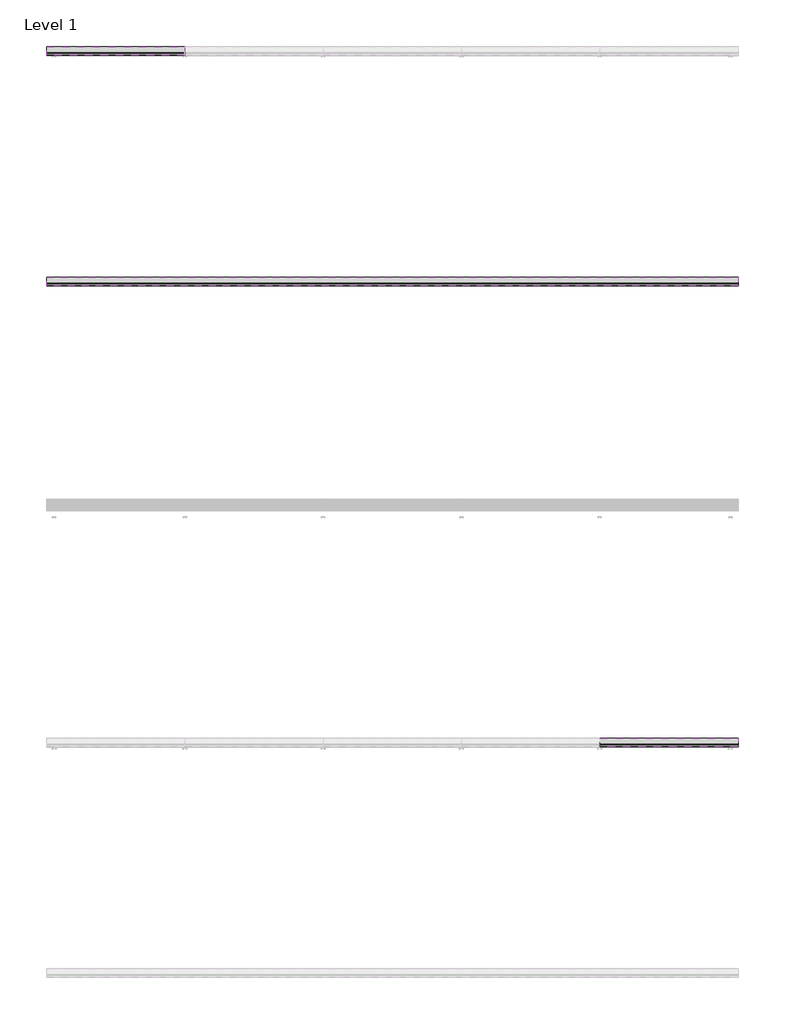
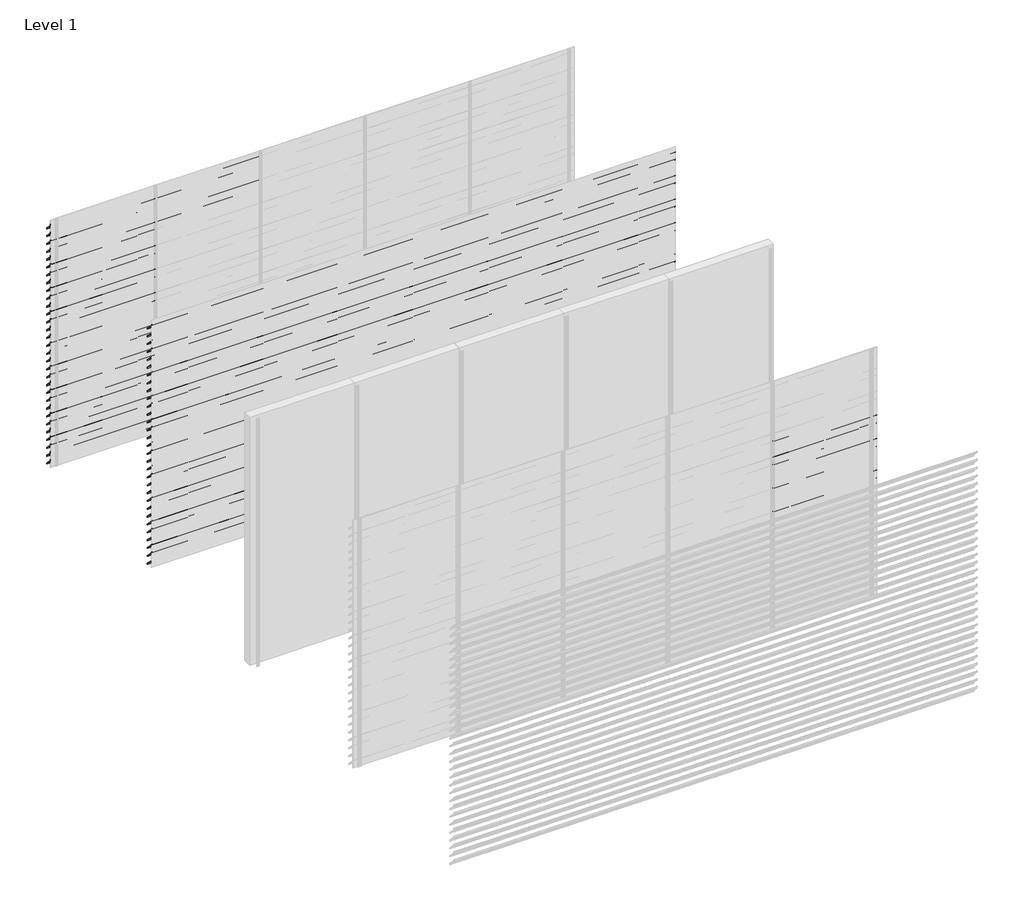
# One storey, part 22 of 24: 91 proxies.
"""IFC4 building model written with IfcOpenShell, lengths in millimetres."""

from ifc_helpers import new_model, si_unit, frame, origin, place, context, project, spatial, polyline, outline, extrude, element, save

model = new_model("IFC4")

# Units and contexts
model_context = context("Model", 3, world=origin())
ifc_project = project(units=[si_unit("LENGTHUNIT", "METRE", prefix="MILLI")], contexts=[model_context])

# Site, building, storey
site = spatial("IfcSite", under=ifc_project)
building = spatial("IfcBuilding", under=site)
storey = spatial("IfcBuildingStorey", under=building, Name="Level 1", Elevation=0.0)

# Proxies
placement = place(None, origin())
element("IfcBuildingElementProxy", 1, Name="Wall Sweeps", at=placement, inside=storey, context=model_context, shape_type="SweptSolid", body=[
    extrude(outline(polyline([(79.2, 2842.9), (77.7, 2842.9), (77.7, 2855.1762333), (2.0, 2930.4561238), (2.0, 2945.0), (3.5, 2945.0), (3.5, 2931.0798905), (79.2, 2855.8), (79.2, 2842.9)])), frame((0.0, 0.0, 0.0), z_axis=(1.0, 0.0, 0.0), x_axis=(0.0, 1.0, 0.0)), (0.0, 0.0, 1.0), 1200.0),
])
element("IfcBuildingElementProxy", 2, Name="Wall Sweeps", at=placement, inside=storey, context=model_context, shape_type="SweptSolid", body=[
    extrude(outline(polyline([(79.2, 2747.9), (77.7, 2747.9), (77.7, 2760.1762333), (2.0, 2835.4561238), (2.0, 2850.0), (3.5, 2850.0), (3.5, 2836.0798905), (79.2, 2760.8), (79.2, 2747.9)])), frame((0.0, 0.0, 0.0), z_axis=(1.0, 0.0, 0.0), x_axis=(0.0, 1.0, 0.0)), (0.0, 0.0, 1.0), 1200.0),
])
element("IfcBuildingElementProxy", 3, Name="Wall Sweeps", at=placement, inside=storey, context=model_context, shape_type="SweptSolid", body=[
    extrude(outline(polyline([(79.2, 2652.9), (77.7, 2652.9), (77.7, 2665.1762333), (2.0, 2740.4561238), (2.0, 2755.0), (3.5, 2755.0), (3.5, 2741.0798905), (79.2, 2665.8), (79.2, 2652.9)])), frame((0.0, 0.0, 0.0), z_axis=(1.0, 0.0, 0.0), x_axis=(0.0, 1.0, 0.0)), (0.0, 0.0, 1.0), 1200.0),
])
element("IfcBuildingElementProxy", 4, Name="Wall Sweeps", at=placement, inside=storey, context=model_context, shape_type="SweptSolid", body=[
    extrude(outline(polyline([(79.2, 2557.9), (77.7, 2557.9), (77.7, 2570.1762333), (2.0, 2645.4561238), (2.0, 2660.0), (3.5, 2660.0), (3.5, 2646.0798905), (79.2, 2570.8), (79.2, 2557.9)])), frame((0.0, 0.0, 0.0), z_axis=(1.0, 0.0, 0.0), x_axis=(0.0, 1.0, 0.0)), (0.0, 0.0, 1.0), 1200.0),
])
element("IfcBuildingElementProxy", 5, Name="Wall Sweeps", at=placement, inside=storey, context=model_context, shape_type="SweptSolid", body=[
    extrude(outline(polyline([(79.2, 2462.9), (77.7, 2462.9), (77.7, 2475.1762333), (2.0, 2550.4561238), (2.0, 2565.0), (3.5, 2565.0), (3.5, 2551.0798905), (79.2, 2475.8), (79.2, 2462.9)])), frame((0.0, 0.0, 0.0), z_axis=(1.0, 0.0, 0.0), x_axis=(0.0, 1.0, 0.0)), (0.0, 0.0, 1.0), 1200.0),
])
element("IfcBuildingElementProxy", 6, Name="Wall Sweeps", at=placement, inside=storey, context=model_context, shape_type="SweptSolid", body=[
    extrude(outline(polyline([(79.2, 2367.9), (77.7, 2367.9), (77.7, 2380.1762333), (2.0, 2455.4561238), (2.0, 2470.0), (3.5, 2470.0), (3.5, 2456.0798905), (79.2, 2380.8), (79.2, 2367.9)])), frame((0.0, 0.0, 0.0), z_axis=(1.0, 0.0, 0.0), x_axis=(0.0, 1.0, 0.0)), (0.0, 0.0, 1.0), 1200.0),
])
element("IfcBuildingElementProxy", 7, Name="Wall Sweeps", at=placement, inside=storey, context=model_context, shape_type="SweptSolid", body=[
    extrude(outline(polyline([(79.2, 2272.9), (77.7, 2272.9), (77.7, 2285.1762333), (2.0, 2360.4561238), (2.0, 2375.0), (3.5, 2375.0), (3.5, 2361.0798905), (79.2, 2285.8), (79.2, 2272.9)])), frame((0.0, 0.0, 0.0), z_axis=(1.0, 0.0, 0.0), x_axis=(0.0, 1.0, 0.0)), (0.0, 0.0, 1.0), 1200.0),
])
element("IfcBuildingElementProxy", 8, Name="Wall Sweeps", at=placement, inside=storey, context=model_context, shape_type="SweptSolid", body=[
    extrude(outline(polyline([(79.2, 2177.9), (77.7, 2177.9), (77.7, 2190.1762333), (2.0, 2265.4561238), (2.0, 2280.0), (3.5, 2280.0), (3.5, 2266.0798905), (79.2, 2190.8), (79.2, 2177.9)])), frame((0.0, 0.0, 0.0), z_axis=(1.0, 0.0, 0.0), x_axis=(0.0, 1.0, 0.0)), (0.0, 0.0, 1.0), 1200.0),
])
element("IfcBuildingElementProxy", 9, Name="Wall Sweeps", at=placement, inside=storey, context=model_context, shape_type="SweptSolid", body=[
    extrude(outline(polyline([(79.2, 2082.9), (77.7, 2082.9), (77.7, 2095.1762333), (2.0, 2170.4561238), (2.0, 2185.0), (3.5, 2185.0), (3.5, 2171.0798905), (79.2, 2095.8), (79.2, 2082.9)])), frame((0.0, 0.0, 0.0), z_axis=(1.0, 0.0, 0.0), x_axis=(0.0, 1.0, 0.0)), (0.0, 0.0, 1.0), 1200.0),
])
element("IfcBuildingElementProxy", 10, Name="Wall Sweeps", at=placement, inside=storey, context=model_context, shape_type="SweptSolid", body=[
    extrude(outline(polyline([(79.2, 1987.9), (77.7, 1987.9), (77.7, 2000.1762333), (2.0, 2075.4561238), (2.0, 2090.0), (3.5, 2090.0), (3.5, 2076.0798905), (79.2, 2000.8), (79.2, 1987.9)])), frame((0.0, 0.0, 0.0), z_axis=(1.0, 0.0, 0.0), x_axis=(0.0, 1.0, 0.0)), (0.0, 0.0, 1.0), 1200.0),
])
element("IfcBuildingElementProxy", 11, Name="Wall Sweeps", at=placement, inside=storey, context=model_context, shape_type="SweptSolid", body=[
    extrude(outline(polyline([(79.2, 1892.9), (77.7, 1892.9), (77.7, 1905.1762333), (2.0, 1980.4561238), (2.0, 1995.0), (3.5, 1995.0), (3.5, 1981.0798905), (79.2, 1905.8), (79.2, 1892.9)])), frame((0.0, 0.0, 0.0), z_axis=(1.0, 0.0, 0.0), x_axis=(0.0, 1.0, 0.0)), (0.0, 0.0, 1.0), 1200.0),
])
element("IfcBuildingElementProxy", 12, Name="Wall Sweeps", at=placement, inside=storey, context=model_context, shape_type="SweptSolid", body=[
    extrude(outline(polyline([(79.2, 1797.9), (77.7, 1797.9), (77.7, 1810.1762333), (2.0, 1885.4561238), (2.0, 1900.0), (3.5, 1900.0), (3.5, 1886.0798905), (79.2, 1810.8), (79.2, 1797.9)])), frame((0.0, 0.0, 0.0), z_axis=(1.0, 0.0, 0.0), x_axis=(0.0, 1.0, 0.0)), (0.0, 0.0, 1.0), 1200.0),
])
element("IfcBuildingElementProxy", 13, Name="Wall Sweeps", at=placement, inside=storey, context=model_context, shape_type="SweptSolid", body=[
    extrude(outline(polyline([(79.2, 1702.9), (77.7, 1702.9), (77.7, 1715.1762333), (2.0, 1790.4561238), (2.0, 1805.0), (3.5, 1805.0), (3.5, 1791.0798905), (79.2, 1715.8), (79.2, 1702.9)])), frame((0.0, 0.0, 0.0), z_axis=(1.0, 0.0, 0.0), x_axis=(0.0, 1.0, 0.0)), (0.0, 0.0, 1.0), 1200.0),
])
element("IfcBuildingElementProxy", 14, Name="Wall Sweeps", at=placement, inside=storey, context=model_context, shape_type="SweptSolid", body=[
    extrude(outline(polyline([(79.2, 1607.9), (77.7, 1607.9), (77.7, 1620.1762333), (2.0, 1695.4561238), (2.0, 1710.0), (3.5, 1710.0), (3.5, 1696.0798905), (79.2, 1620.8), (79.2, 1607.9)])), frame((0.0, 0.0, 0.0), z_axis=(1.0, 0.0, 0.0), x_axis=(0.0, 1.0, 0.0)), (0.0, 0.0, 1.0), 1200.0),
])
element("IfcBuildingElementProxy", 15, Name="Wall Sweeps", at=placement, inside=storey, context=model_context, shape_type="SweptSolid", body=[
    extrude(outline(polyline([(79.2, 1512.9), (77.7, 1512.9), (77.7, 1525.1762333), (2.0, 1600.4561238), (2.0, 1615.0), (3.5, 1615.0), (3.5, 1601.0798905), (79.2, 1525.8), (79.2, 1512.9)])), frame((0.0, 0.0, 0.0), z_axis=(1.0, 0.0, 0.0), x_axis=(0.0, 1.0, 0.0)), (0.0, 0.0, 1.0), 1200.0),
])
element("IfcBuildingElementProxy", 16, Name="Wall Sweeps", at=placement, inside=storey, context=model_context, shape_type="SweptSolid", body=[
    extrude(outline(polyline([(79.2, 1417.9), (77.7, 1417.9), (77.7, 1430.1762333), (2.0, 1505.4561238), (2.0, 1520.0), (3.5, 1520.0), (3.5, 1506.0798905), (79.2, 1430.8), (79.2, 1417.9)])), frame((0.0, 0.0, 0.0), z_axis=(1.0, 0.0, 0.0), x_axis=(0.0, 1.0, 0.0)), (0.0, 0.0, 1.0), 1200.0),
])
element("IfcBuildingElementProxy", 17, Name="Wall Sweeps", at=placement, inside=storey, context=model_context, shape_type="SweptSolid", body=[
    extrude(outline(polyline([(79.2, 1322.9), (77.7, 1322.9), (77.7, 1335.1762333), (2.0, 1410.4561238), (2.0, 1425.0), (3.5, 1425.0), (3.5, 1411.0798905), (79.2, 1335.8), (79.2, 1322.9)])), frame((0.0, 0.0, 0.0), z_axis=(1.0, 0.0, 0.0), x_axis=(0.0, 1.0, 0.0)), (0.0, 0.0, 1.0), 1200.0),
])
element("IfcBuildingElementProxy", 18, Name="Wall Sweeps", at=placement, inside=storey, context=model_context, shape_type="SweptSolid", body=[
    extrude(outline(polyline([(79.2, 1227.9), (77.7, 1227.9), (77.7, 1240.1762333), (2.0, 1315.4561238), (2.0, 1330.0), (3.5, 1330.0), (3.5, 1316.0798905), (79.2, 1240.8), (79.2, 1227.9)])), frame((0.0, 0.0, 0.0), z_axis=(1.0, 0.0, 0.0), x_axis=(0.0, 1.0, 0.0)), (0.0, 0.0, 1.0), 1200.0),
])
element("IfcBuildingElementProxy", 19, Name="Wall Sweeps", at=placement, inside=storey, context=model_context, shape_type="SweptSolid", body=[
    extrude(outline(polyline([(79.2, 1132.9), (77.7, 1132.9), (77.7, 1145.1762333), (2.0, 1220.4561238), (2.0, 1235.0), (3.5, 1235.0), (3.5, 1221.0798905), (79.2, 1145.8), (79.2, 1132.9)])), frame((0.0, 0.0, 0.0), z_axis=(1.0, 0.0, 0.0), x_axis=(0.0, 1.0, 0.0)), (0.0, 0.0, 1.0), 1200.0),
])
element("IfcBuildingElementProxy", 20, Name="Wall Sweeps", at=placement, inside=storey, context=model_context, shape_type="SweptSolid", body=[
    extrude(outline(polyline([(79.2, 1037.9), (77.7, 1037.9), (77.7, 1050.1762333), (2.0, 1125.4561238), (2.0, 1140.0), (3.5, 1140.0), (3.5, 1126.0798905), (79.2, 1050.8), (79.2, 1037.9)])), frame((0.0, 0.0, 0.0), z_axis=(1.0, 0.0, 0.0), x_axis=(0.0, 1.0, 0.0)), (0.0, 0.0, 1.0), 1200.0),
])
element("IfcBuildingElementProxy", 21, Name="Wall Sweeps", at=placement, inside=storey, context=model_context, shape_type="SweptSolid", body=[
    extrude(outline(polyline([(79.2, 942.9), (77.7, 942.9), (77.7, 955.1762333), (2.0, 1030.4561238), (2.0, 1045.0), (3.5, 1045.0), (3.5, 1031.0798905), (79.2, 955.8), (79.2, 942.9)])), frame((0.0, 0.0, 0.0), z_axis=(1.0, 0.0, 0.0), x_axis=(0.0, 1.0, 0.0)), (0.0, 0.0, 1.0), 1200.0),
])
element("IfcBuildingElementProxy", 22, Name="Wall Sweeps", at=placement, inside=storey, context=model_context, shape_type="SweptSolid", body=[
    extrude(outline(polyline([(79.2, 847.9), (77.7, 847.9), (77.7, 860.1762333), (2.0, 935.4561238), (2.0, 950.0), (3.5, 950.0), (3.5, 936.0798905), (79.2, 860.8), (79.2, 847.9)])), frame((0.0, 0.0, 0.0), z_axis=(1.0, 0.0, 0.0), x_axis=(0.0, 1.0, 0.0)), (0.0, 0.0, 1.0), 1200.0),
])
element("IfcBuildingElementProxy", 23, Name="Wall Sweeps", at=placement, inside=storey, context=model_context, shape_type="SweptSolid", body=[
    extrude(outline(polyline([(79.2, 752.9), (77.7, 752.9), (77.7, 765.1762333), (2.0, 840.4561238), (2.0, 855.0), (3.5, 855.0), (3.5, 841.0798905), (79.2, 765.8), (79.2, 752.9)])), frame((0.0, 0.0, 0.0), z_axis=(1.0, 0.0, 0.0), x_axis=(0.0, 1.0, 0.0)), (0.0, 0.0, 1.0), 1200.0),
])
element("IfcBuildingElementProxy", 24, Name="Wall Sweeps", at=placement, inside=storey, context=model_context, shape_type="SweptSolid", body=[
    extrude(outline(polyline([(79.2, 657.9), (77.7, 657.9), (77.7, 670.1762333), (2.0, 745.4561238), (2.0, 760.0), (3.5, 760.0), (3.5, 746.0798905), (79.2, 670.8), (79.2, 657.9)])), frame((0.0, 0.0, 0.0), z_axis=(1.0, 0.0, 0.0), x_axis=(0.0, 1.0, 0.0)), (0.0, 0.0, 1.0), 1200.0),
])
element("IfcBuildingElementProxy", 25, Name="Wall Sweeps", at=placement, inside=storey, context=model_context, shape_type="SweptSolid", body=[
    extrude(outline(polyline([(79.2, 562.9), (77.7, 562.9), (77.7, 575.1762333), (2.0, 650.4561238), (2.0, 665.0), (3.5, 665.0), (3.5, 651.0798905), (79.2, 575.8), (79.2, 562.9)])), frame((0.0, 0.0, 0.0), z_axis=(1.0, 0.0, 0.0), x_axis=(0.0, 1.0, 0.0)), (0.0, 0.0, 1.0), 1200.0),
])
element("IfcBuildingElementProxy", 26, Name="Wall Sweeps", at=placement, inside=storey, context=model_context, shape_type="SweptSolid", body=[
    extrude(outline(polyline([(79.2, 467.9), (77.7, 467.9), (77.7, 480.1762333), (2.0, 555.4561238), (2.0, 570.0), (3.5, 570.0), (3.5, 556.0798905), (79.2, 480.8), (79.2, 467.9)])), frame((0.0, 0.0, 0.0), z_axis=(1.0, 0.0, 0.0), x_axis=(0.0, 1.0, 0.0)), (0.0, 0.0, 1.0), 1200.0),
])
element("IfcBuildingElementProxy", 27, Name="Wall Sweeps", at=placement, inside=storey, context=model_context, shape_type="SweptSolid", body=[
    extrude(outline(polyline([(79.2, 372.9), (77.7, 372.9), (77.7, 385.1762333), (2.0, 460.4561238), (2.0, 475.0), (3.5, 475.0), (3.5, 461.0798905), (79.2, 385.8), (79.2, 372.9)])), frame((0.0, 0.0, 0.0), z_axis=(1.0, 0.0, 0.0), x_axis=(0.0, 1.0, 0.0)), (0.0, 0.0, 1.0), 1200.0),
])
element("IfcBuildingElementProxy", 28, Name="Wall Sweeps", at=placement, inside=storey, context=model_context, shape_type="SweptSolid", body=[
    extrude(outline(polyline([(79.2, 277.9), (77.7, 277.9), (77.7, 290.1762333), (2.0, 365.4561238), (2.0, 380.0), (3.5, 380.0), (3.5, 366.0798905), (79.2, 290.8), (79.2, 277.9)])), frame((0.0, 0.0, 0.0), z_axis=(1.0, 0.0, 0.0), x_axis=(0.0, 1.0, 0.0)), (0.0, 0.0, 1.0), 1200.0),
])
element("IfcBuildingElementProxy", 29, Name="Wall Sweeps", at=placement, inside=storey, context=model_context, shape_type="SweptSolid", body=[
    extrude(outline(polyline([(79.2, 182.9), (77.7, 182.9), (77.7, 195.1762333), (2.0, 270.4561238), (2.0, 285.0), (3.5, 285.0), (3.5, 271.0798905), (79.2, 195.8), (79.2, 182.9)])), frame((0.0, 0.0, 0.0), z_axis=(1.0, 0.0, 0.0), x_axis=(0.0, 1.0, 0.0)), (0.0, 0.0, 1.0), 1200.0),
])
element("IfcBuildingElementProxy", 30, Name="Wall Sweeps", at=placement, inside=storey, context=model_context, shape_type="SweptSolid", body=[
    extrude(outline(polyline([(79.2, 87.9), (77.7, 87.9), (77.7, 100.1762333), (2.0, 175.4561238), (2.0, 190.0), (3.5, 190.0), (3.5, 176.0798905), (79.2, 100.8), (79.2, 87.9)])), frame((0.0, 0.0, 0.0), z_axis=(1.0, 0.0, 0.0), x_axis=(0.0, 1.0, 0.0)), (0.0, 0.0, 1.0), 1200.0),
])
element("IfcBuildingElementProxy", 31, Name="Wall Sweeps", at=placement, inside=storey, context=model_context, shape_type="SweptSolid", body=[
    extrude(outline(polyline([(79.2, -7.1), (77.7, -7.1), (77.7, 5.1762333), (2.0, 80.4561238), (2.0, 95.0), (3.5, 95.0), (3.5, 81.0798905), (79.2, 5.8), (79.2, -7.1)])), frame((0.0, 0.0, 0.0), z_axis=(1.0, 0.0, 0.0), x_axis=(0.0, 1.0, 0.0)), (0.0, 0.0, 1.0), 1200.0),
])
element("IfcBuildingElementProxy", 32, Name="Wall Sweeps", at=placement, inside=storey, context=model_context, shape_type="SweptSolid", body=[
    extrude(outline(polyline([(79.2, 2842.9), (77.7, 2842.9), (77.7, 2855.1762333), (2.0, 2930.4561238), (2.0, 2945.0), (3.5, 2945.0), (3.5, 2931.0798905), (79.2, 2855.8), (79.2, 2842.9)])), frame((1200.0, 0.0, 0.0), z_axis=(1.0, 0.0, 0.0), x_axis=(0.0, 1.0, 0.0)), (0.0, 0.0, 1.0), 1200.0),
])
element("IfcBuildingElementProxy", 33, Name="Wall Sweeps", at=placement, inside=storey, context=model_context, shape_type="SweptSolid", body=[
    extrude(outline(polyline([(79.2, 2747.9), (77.7, 2747.9), (77.7, 2760.1762333), (2.0, 2835.4561238), (2.0, 2850.0), (3.5, 2850.0), (3.5, 2836.0798905), (79.2, 2760.8), (79.2, 2747.9)])), frame((1200.0, 0.0, 0.0), z_axis=(1.0, 0.0, 0.0), x_axis=(0.0, 1.0, 0.0)), (0.0, 0.0, 1.0), 1200.0),
])
element("IfcBuildingElementProxy", 34, Name="Wall Sweeps", at=placement, inside=storey, context=model_context, shape_type="SweptSolid", body=[
    extrude(outline(polyline([(79.2, 2652.9), (77.7, 2652.9), (77.7, 2665.1762333), (2.0, 2740.4561238), (2.0, 2755.0), (3.5, 2755.0), (3.5, 2741.0798905), (79.2, 2665.8), (79.2, 2652.9)])), frame((1200.0, 0.0, 0.0), z_axis=(1.0, 0.0, 0.0), x_axis=(0.0, 1.0, 0.0)), (0.0, 0.0, 1.0), 1200.0),
])
element("IfcBuildingElementProxy", 35, Name="Wall Sweeps", at=placement, inside=storey, context=model_context, shape_type="SweptSolid", body=[
    extrude(outline(polyline([(79.2, 2557.9), (77.7, 2557.9), (77.7, 2570.1762333), (2.0, 2645.4561238), (2.0, 2660.0), (3.5, 2660.0), (3.5, 2646.0798905), (79.2, 2570.8), (79.2, 2557.9)])), frame((1200.0, 0.0, 0.0), z_axis=(1.0, 0.0, 0.0), x_axis=(0.0, 1.0, 0.0)), (0.0, 0.0, 1.0), 1200.0),
])
element("IfcBuildingElementProxy", 36, Name="Wall Sweeps", at=placement, inside=storey, context=model_context, shape_type="SweptSolid", body=[
    extrude(outline(polyline([(79.2, 2462.9), (77.7, 2462.9), (77.7, 2475.1762333), (2.0, 2550.4561238), (2.0, 2565.0), (3.5, 2565.0), (3.5, 2551.0798905), (79.2, 2475.8), (79.2, 2462.9)])), frame((1200.0, 0.0, 0.0), z_axis=(1.0, 0.0, 0.0), x_axis=(0.0, 1.0, 0.0)), (0.0, 0.0, 1.0), 1200.0),
])
element("IfcBuildingElementProxy", 37, Name="Wall Sweeps", at=placement, inside=storey, context=model_context, shape_type="SweptSolid", body=[
    extrude(outline(polyline([(-1920.8, 2842.9), (-1922.3, 2842.9), (-1922.3, 2855.1762333), (-1998.0, 2930.4561238), (-1998.0, 2945.0), (-1996.5, 2945.0), (-1996.5, 2931.0798905), (-1920.8, 2855.8), (-1920.8, 2842.9)])), frame((0.0, 0.0, 0.0), z_axis=(1.0, 0.0, 0.0), x_axis=(0.0, 1.0, 0.0)), (0.0, 0.0, 1.0), 6000.0),
])
element("IfcBuildingElementProxy", 38, Name="Wall Sweeps", at=placement, inside=storey, context=model_context, shape_type="SweptSolid", body=[
    extrude(outline(polyline([(-1920.8, 2747.9), (-1922.3, 2747.9), (-1922.3, 2760.1762333), (-1998.0, 2835.4561238), (-1998.0, 2850.0), (-1996.5, 2850.0), (-1996.5, 2836.0798905), (-1920.8, 2760.8), (-1920.8, 2747.9)])), frame((0.0, 0.0, 0.0), z_axis=(1.0, 0.0, 0.0), x_axis=(0.0, 1.0, 0.0)), (0.0, 0.0, 1.0), 6000.0),
])
element("IfcBuildingElementProxy", 39, Name="Wall Sweeps", at=placement, inside=storey, context=model_context, shape_type="SweptSolid", body=[
    extrude(outline(polyline([(-1920.8, 2652.9), (-1922.3, 2652.9), (-1922.3, 2665.1762333), (-1998.0, 2740.4561238), (-1998.0, 2755.0), (-1996.5, 2755.0), (-1996.5, 2741.0798905), (-1920.8, 2665.8), (-1920.8, 2652.9)])), frame((0.0, 0.0, 0.0), z_axis=(1.0, 0.0, 0.0), x_axis=(0.0, 1.0, 0.0)), (0.0, 0.0, 1.0), 6000.0),
])
element("IfcBuildingElementProxy", 40, Name="Wall Sweeps", at=placement, inside=storey, context=model_context, shape_type="SweptSolid", body=[
    extrude(outline(polyline([(-1920.8, 2557.9), (-1922.3, 2557.9), (-1922.3, 2570.1762333), (-1998.0, 2645.4561238), (-1998.0, 2660.0), (-1996.5, 2660.0), (-1996.5, 2646.0798905), (-1920.8, 2570.8), (-1920.8, 2557.9)])), frame((0.0, 0.0, 0.0), z_axis=(1.0, 0.0, 0.0), x_axis=(0.0, 1.0, 0.0)), (0.0, 0.0, 1.0), 6000.0),
])
element("IfcBuildingElementProxy", 41, Name="Wall Sweeps", at=placement, inside=storey, context=model_context, shape_type="SweptSolid", body=[
    extrude(outline(polyline([(-1920.8, 2462.9), (-1922.3, 2462.9), (-1922.3, 2475.1762333), (-1998.0, 2550.4561238), (-1998.0, 2565.0), (-1996.5, 2565.0), (-1996.5, 2551.0798905), (-1920.8, 2475.8), (-1920.8, 2462.9)])), frame((0.0, 0.0, 0.0), z_axis=(1.0, 0.0, 0.0), x_axis=(0.0, 1.0, 0.0)), (0.0, 0.0, 1.0), 6000.0),
])
element("IfcBuildingElementProxy", 42, Name="Wall Sweeps", at=placement, inside=storey, context=model_context, shape_type="SweptSolid", body=[
    extrude(outline(polyline([(-1920.8, 2367.9), (-1922.3, 2367.9), (-1922.3, 2380.1762333), (-1998.0, 2455.4561238), (-1998.0, 2470.0), (-1996.5, 2470.0), (-1996.5, 2456.0798905), (-1920.8, 2380.8), (-1920.8, 2367.9)])), frame((0.0, 0.0, 0.0), z_axis=(1.0, 0.0, 0.0), x_axis=(0.0, 1.0, 0.0)), (0.0, 0.0, 1.0), 6000.0),
])
element("IfcBuildingElementProxy", 43, Name="Wall Sweeps", at=placement, inside=storey, context=model_context, shape_type="SweptSolid", body=[
    extrude(outline(polyline([(-1920.8, 2272.9), (-1922.3, 2272.9), (-1922.3, 2285.1762333), (-1998.0, 2360.4561238), (-1998.0, 2375.0), (-1996.5, 2375.0), (-1996.5, 2361.0798905), (-1920.8, 2285.8), (-1920.8, 2272.9)])), frame((0.0, 0.0, 0.0), z_axis=(1.0, 0.0, 0.0), x_axis=(0.0, 1.0, 0.0)), (0.0, 0.0, 1.0), 6000.0),
])
element("IfcBuildingElementProxy", 44, Name="Wall Sweeps", at=placement, inside=storey, context=model_context, shape_type="SweptSolid", body=[
    extrude(outline(polyline([(-1920.8, 2177.9), (-1922.3, 2177.9), (-1922.3, 2190.1762333), (-1998.0, 2265.4561238), (-1998.0, 2280.0), (-1996.5, 2280.0), (-1996.5, 2266.0798905), (-1920.8, 2190.8), (-1920.8, 2177.9)])), frame((0.0, 0.0, 0.0), z_axis=(1.0, 0.0, 0.0), x_axis=(0.0, 1.0, 0.0)), (0.0, 0.0, 1.0), 6000.0),
])
element("IfcBuildingElementProxy", 45, Name="Wall Sweeps", at=placement, inside=storey, context=model_context, shape_type="SweptSolid", body=[
    extrude(outline(polyline([(-1920.8, 2082.9), (-1922.3, 2082.9), (-1922.3, 2095.1762333), (-1998.0, 2170.4561238), (-1998.0, 2185.0), (-1996.5, 2185.0), (-1996.5, 2171.0798905), (-1920.8, 2095.8), (-1920.8, 2082.9)])), frame((0.0, 0.0, 0.0), z_axis=(1.0, 0.0, 0.0), x_axis=(0.0, 1.0, 0.0)), (0.0, 0.0, 1.0), 6000.0),
])
element("IfcBuildingElementProxy", 46, Name="Wall Sweeps", at=placement, inside=storey, context=model_context, shape_type="SweptSolid", body=[
    extrude(outline(polyline([(-1920.8, 1987.9), (-1922.3, 1987.9), (-1922.3, 2000.1762333), (-1998.0, 2075.4561238), (-1998.0, 2090.0), (-1996.5, 2090.0), (-1996.5, 2076.0798905), (-1920.8, 2000.8), (-1920.8, 1987.9)])), frame((0.0, 0.0, 0.0), z_axis=(1.0, 0.0, 0.0), x_axis=(0.0, 1.0, 0.0)), (0.0, 0.0, 1.0), 6000.0),
])
element("IfcBuildingElementProxy", 47, Name="Wall Sweeps", at=placement, inside=storey, context=model_context, shape_type="SweptSolid", body=[
    extrude(outline(polyline([(-1920.8, 1892.9), (-1922.3, 1892.9), (-1922.3, 1905.1762333), (-1998.0, 1980.4561238), (-1998.0, 1995.0), (-1996.5, 1995.0), (-1996.5, 1981.0798905), (-1920.8, 1905.8), (-1920.8, 1892.9)])), frame((0.0, 0.0, 0.0), z_axis=(1.0, 0.0, 0.0), x_axis=(0.0, 1.0, 0.0)), (0.0, 0.0, 1.0), 6000.0),
])
element("IfcBuildingElementProxy", 48, Name="Wall Sweeps", at=placement, inside=storey, context=model_context, shape_type="SweptSolid", body=[
    extrude(outline(polyline([(-1920.8, 1797.9), (-1922.3, 1797.9), (-1922.3, 1810.1762333), (-1998.0, 1885.4561238), (-1998.0, 1900.0), (-1996.5, 1900.0), (-1996.5, 1886.0798905), (-1920.8, 1810.8), (-1920.8, 1797.9)])), frame((0.0, 0.0, 0.0), z_axis=(1.0, 0.0, 0.0), x_axis=(0.0, 1.0, 0.0)), (0.0, 0.0, 1.0), 6000.0),
])
element("IfcBuildingElementProxy", 49, Name="Wall Sweeps", at=placement, inside=storey, context=model_context, shape_type="SweptSolid", body=[
    extrude(outline(polyline([(-1920.8, 1702.9), (-1922.3, 1702.9), (-1922.3, 1715.1762333), (-1998.0, 1790.4561238), (-1998.0, 1805.0), (-1996.5, 1805.0), (-1996.5, 1791.0798905), (-1920.8, 1715.8), (-1920.8, 1702.9)])), frame((0.0, 0.0, 0.0), z_axis=(1.0, 0.0, 0.0), x_axis=(0.0, 1.0, 0.0)), (0.0, 0.0, 1.0), 6000.0),
])
element("IfcBuildingElementProxy", 50, Name="Wall Sweeps", at=placement, inside=storey, context=model_context, shape_type="SweptSolid", body=[
    extrude(outline(polyline([(-1920.8, 1607.9), (-1922.3, 1607.9), (-1922.3, 1620.1762333), (-1998.0, 1695.4561238), (-1998.0, 1710.0), (-1996.5, 1710.0), (-1996.5, 1696.0798905), (-1920.8, 1620.8), (-1920.8, 1607.9)])), frame((0.0, 0.0, 0.0), z_axis=(1.0, 0.0, 0.0), x_axis=(0.0, 1.0, 0.0)), (0.0, 0.0, 1.0), 6000.0),
])
element("IfcBuildingElementProxy", 51, Name="Wall Sweeps", at=placement, inside=storey, context=model_context, shape_type="SweptSolid", body=[
    extrude(outline(polyline([(-1920.8, 1512.9), (-1922.3, 1512.9), (-1922.3, 1525.1762333), (-1998.0, 1600.4561238), (-1998.0, 1615.0), (-1996.5, 1615.0), (-1996.5, 1601.0798905), (-1920.8, 1525.8), (-1920.8, 1512.9)])), frame((0.0, 0.0, 0.0), z_axis=(1.0, 0.0, 0.0), x_axis=(0.0, 1.0, 0.0)), (0.0, 0.0, 1.0), 6000.0),
])
element("IfcBuildingElementProxy", 52, Name="Wall Sweeps", at=placement, inside=storey, context=model_context, shape_type="SweptSolid", body=[
    extrude(outline(polyline([(-1920.8, 1417.9), (-1922.3, 1417.9), (-1922.3, 1430.1762333), (-1998.0, 1505.4561238), (-1998.0, 1520.0), (-1996.5, 1520.0), (-1996.5, 1506.0798905), (-1920.8, 1430.8), (-1920.8, 1417.9)])), frame((0.0, 0.0, 0.0), z_axis=(1.0, 0.0, 0.0), x_axis=(0.0, 1.0, 0.0)), (0.0, 0.0, 1.0), 6000.0),
])
element("IfcBuildingElementProxy", 53, Name="Wall Sweeps", at=placement, inside=storey, context=model_context, shape_type="SweptSolid", body=[
    extrude(outline(polyline([(-1920.8, 1322.9), (-1922.3, 1322.9), (-1922.3, 1335.1762333), (-1998.0, 1410.4561238), (-1998.0, 1425.0), (-1996.5, 1425.0), (-1996.5, 1411.0798905), (-1920.8, 1335.8), (-1920.8, 1322.9)])), frame((0.0, 0.0, 0.0), z_axis=(1.0, 0.0, 0.0), x_axis=(0.0, 1.0, 0.0)), (0.0, 0.0, 1.0), 6000.0),
])
element("IfcBuildingElementProxy", 54, Name="Wall Sweeps", at=placement, inside=storey, context=model_context, shape_type="SweptSolid", body=[
    extrude(outline(polyline([(-1920.8, 1227.9), (-1922.3, 1227.9), (-1922.3, 1240.1762333), (-1998.0, 1315.4561238), (-1998.0, 1330.0), (-1996.5, 1330.0), (-1996.5, 1316.0798905), (-1920.8, 1240.8), (-1920.8, 1227.9)])), frame((0.0, 0.0, 0.0), z_axis=(1.0, 0.0, 0.0), x_axis=(0.0, 1.0, 0.0)), (0.0, 0.0, 1.0), 6000.0),
])
element("IfcBuildingElementProxy", 55, Name="Wall Sweeps", at=placement, inside=storey, context=model_context, shape_type="SweptSolid", body=[
    extrude(outline(polyline([(-1920.8, 1132.9), (-1922.3, 1132.9), (-1922.3, 1145.1762333), (-1998.0, 1220.4561238), (-1998.0, 1235.0), (-1996.5, 1235.0), (-1996.5, 1221.0798905), (-1920.8, 1145.8), (-1920.8, 1132.9)])), frame((0.0, 0.0, 0.0), z_axis=(1.0, 0.0, 0.0), x_axis=(0.0, 1.0, 0.0)), (0.0, 0.0, 1.0), 6000.0),
])
element("IfcBuildingElementProxy", 56, Name="Wall Sweeps", at=placement, inside=storey, context=model_context, shape_type="SweptSolid", body=[
    extrude(outline(polyline([(-1920.8, 1037.9), (-1922.3, 1037.9), (-1922.3, 1050.1762333), (-1998.0, 1125.4561238), (-1998.0, 1140.0), (-1996.5, 1140.0), (-1996.5, 1126.0798905), (-1920.8, 1050.8), (-1920.8, 1037.9)])), frame((0.0, 0.0, 0.0), z_axis=(1.0, 0.0, 0.0), x_axis=(0.0, 1.0, 0.0)), (0.0, 0.0, 1.0), 6000.0),
])
element("IfcBuildingElementProxy", 57, Name="Wall Sweeps", at=placement, inside=storey, context=model_context, shape_type="SweptSolid", body=[
    extrude(outline(polyline([(-1920.8, 942.9), (-1922.3, 942.9), (-1922.3, 955.1762333), (-1998.0, 1030.4561238), (-1998.0, 1045.0), (-1996.5, 1045.0), (-1996.5, 1031.0798905), (-1920.8, 955.8), (-1920.8, 942.9)])), frame((0.0, 0.0, 0.0), z_axis=(1.0, 0.0, 0.0), x_axis=(0.0, 1.0, 0.0)), (0.0, 0.0, 1.0), 6000.0),
])
element("IfcBuildingElementProxy", 58, Name="Wall Sweeps", at=placement, inside=storey, context=model_context, shape_type="SweptSolid", body=[
    extrude(outline(polyline([(-1920.8, 847.9), (-1922.3, 847.9), (-1922.3, 860.1762333), (-1998.0, 935.4561238), (-1998.0, 950.0), (-1996.5, 950.0), (-1996.5, 936.0798905), (-1920.8, 860.8), (-1920.8, 847.9)])), frame((0.0, 0.0, 0.0), z_axis=(1.0, 0.0, 0.0), x_axis=(0.0, 1.0, 0.0)), (0.0, 0.0, 1.0), 6000.0),
])
element("IfcBuildingElementProxy", 59, Name="Wall Sweeps", at=placement, inside=storey, context=model_context, shape_type="SweptSolid", body=[
    extrude(outline(polyline([(-1920.8, 752.9), (-1922.3, 752.9), (-1922.3, 765.1762333), (-1998.0, 840.4561238), (-1998.0, 855.0), (-1996.5, 855.0), (-1996.5, 841.0798905), (-1920.8, 765.8), (-1920.8, 752.9)])), frame((0.0, 0.0, 0.0), z_axis=(1.0, 0.0, 0.0), x_axis=(0.0, 1.0, 0.0)), (0.0, 0.0, 1.0), 6000.0),
])
element("IfcBuildingElementProxy", 60, Name="Wall Sweeps", at=placement, inside=storey, context=model_context, shape_type="SweptSolid", body=[
    extrude(outline(polyline([(-1920.8, 657.9), (-1922.3, 657.9), (-1922.3, 670.1762333), (-1998.0, 745.4561238), (-1998.0, 760.0), (-1996.5, 760.0), (-1996.5, 746.0798905), (-1920.8, 670.8), (-1920.8, 657.9)])), frame((0.0, 0.0, 0.0), z_axis=(1.0, 0.0, 0.0), x_axis=(0.0, 1.0, 0.0)), (0.0, 0.0, 1.0), 6000.0),
])
element("IfcBuildingElementProxy", 61, Name="Wall Sweeps", at=placement, inside=storey, context=model_context, shape_type="SweptSolid", body=[
    extrude(outline(polyline([(-1920.8, 562.9), (-1922.3, 562.9), (-1922.3, 575.1762333), (-1998.0, 650.4561238), (-1998.0, 665.0), (-1996.5, 665.0), (-1996.5, 651.0798905), (-1920.8, 575.8), (-1920.8, 562.9)])), frame((0.0, 0.0, 0.0), z_axis=(1.0, 0.0, 0.0), x_axis=(0.0, 1.0, 0.0)), (0.0, 0.0, 1.0), 6000.0),
])
element("IfcBuildingElementProxy", 62, Name="Wall Sweeps", at=placement, inside=storey, context=model_context, shape_type="SweptSolid", body=[
    extrude(outline(polyline([(-1920.8, 467.9), (-1922.3, 467.9), (-1922.3, 480.1762333), (-1998.0, 555.4561238), (-1998.0, 570.0), (-1996.5, 570.0), (-1996.5, 556.0798905), (-1920.8, 480.8), (-1920.8, 467.9)])), frame((0.0, 0.0, 0.0), z_axis=(1.0, 0.0, 0.0), x_axis=(0.0, 1.0, 0.0)), (0.0, 0.0, 1.0), 6000.0),
])
element("IfcBuildingElementProxy", 63, Name="Wall Sweeps", at=placement, inside=storey, context=model_context, shape_type="SweptSolid", body=[
    extrude(outline(polyline([(-1920.8, 372.9), (-1922.3, 372.9), (-1922.3, 385.1762333), (-1998.0, 460.4561238), (-1998.0, 475.0), (-1996.5, 475.0), (-1996.5, 461.0798905), (-1920.8, 385.8), (-1920.8, 372.9)])), frame((0.0, 0.0, 0.0), z_axis=(1.0, 0.0, 0.0), x_axis=(0.0, 1.0, 0.0)), (0.0, 0.0, 1.0), 6000.0),
])
element("IfcBuildingElementProxy", 64, Name="Wall Sweeps", at=placement, inside=storey, context=model_context, shape_type="SweptSolid", body=[
    extrude(outline(polyline([(-1920.8, 277.9), (-1922.3, 277.9), (-1922.3, 290.1762333), (-1998.0, 365.4561238), (-1998.0, 380.0), (-1996.5, 380.0), (-1996.5, 366.0798905), (-1920.8, 290.8), (-1920.8, 277.9)])), frame((0.0, 0.0, 0.0), z_axis=(1.0, 0.0, 0.0), x_axis=(0.0, 1.0, 0.0)), (0.0, 0.0, 1.0), 6000.0),
])
element("IfcBuildingElementProxy", 65, Name="Wall Sweeps", at=placement, inside=storey, context=model_context, shape_type="SweptSolid", body=[
    extrude(outline(polyline([(-1920.8, 182.9), (-1922.3, 182.9), (-1922.3, 195.1762333), (-1998.0, 270.4561238), (-1998.0, 285.0), (-1996.5, 285.0), (-1996.5, 271.0798905), (-1920.8, 195.8), (-1920.8, 182.9)])), frame((0.0, 0.0, 0.0), z_axis=(1.0, 0.0, 0.0), x_axis=(0.0, 1.0, 0.0)), (0.0, 0.0, 1.0), 6000.0),
])
element("IfcBuildingElementProxy", 66, Name="Wall Sweeps", at=placement, inside=storey, context=model_context, shape_type="SweptSolid", body=[
    extrude(outline(polyline([(-1920.8, 87.9), (-1922.3, 87.9), (-1922.3, 100.1762333), (-1998.0, 175.4561238), (-1998.0, 190.0), (-1996.5, 190.0), (-1996.5, 176.0798905), (-1920.8, 100.8), (-1920.8, 87.9)])), frame((0.0, 0.0, 0.0), z_axis=(1.0, 0.0, 0.0), x_axis=(0.0, 1.0, 0.0)), (0.0, 0.0, 1.0), 6000.0),
])
element("IfcBuildingElementProxy", 67, Name="Wall Sweeps", at=placement, inside=storey, context=model_context, shape_type="SweptSolid", body=[
    extrude(outline(polyline([(-1920.8, -7.1), (-1922.3, -7.1), (-1922.3, 5.1762333), (-1998.0, 80.4561238), (-1998.0, 95.0), (-1996.5, 95.0), (-1996.5, 81.0798905), (-1920.8, 5.8), (-1920.8, -7.1)])), frame((0.0, 0.0, 0.0), z_axis=(1.0, 0.0, 0.0), x_axis=(0.0, 1.0, 0.0)), (0.0, 0.0, 1.0), 6000.0),
])
element("IfcBuildingElementProxy", 68, Name="Wall Sweeps", at=placement, inside=storey, context=model_context, shape_type="SweptSolid", body=[
    extrude(outline(polyline([(-5920.8, 2177.9), (-5922.3, 2177.9), (-5922.3, 2190.1762333), (-5998.0, 2265.4561238), (-5998.0, 2280.0), (-5996.5, 2280.0), (-5996.5, 2266.0798905), (-5920.8, 2190.8), (-5920.8, 2177.9)])), frame((4800.0, 0.0, 0.0), z_axis=(1.0, 0.0, 0.0), x_axis=(0.0, 1.0, 0.0)), (0.0, 0.0, 1.0), 1200.0),
])
element("IfcBuildingElementProxy", 69, Name="Wall Sweeps", at=placement, inside=storey, context=model_context, shape_type="SweptSolid", body=[
    extrude(outline(polyline([(-5920.8, 2082.9), (-5922.3, 2082.9), (-5922.3, 2095.1762333), (-5998.0, 2170.4561238), (-5998.0, 2185.0), (-5996.5, 2185.0), (-5996.5, 2171.0798905), (-5920.8, 2095.8), (-5920.8, 2082.9)])), frame((4800.0, 0.0, 0.0), z_axis=(1.0, 0.0, 0.0), x_axis=(0.0, 1.0, 0.0)), (0.0, 0.0, 1.0), 1200.0),
])
element("IfcBuildingElementProxy", 70, Name="Wall Sweeps", at=placement, inside=storey, context=model_context, shape_type="SweptSolid", body=[
    extrude(outline(polyline([(-5920.8, 1987.9), (-5922.3, 1987.9), (-5922.3, 2000.1762333), (-5998.0, 2075.4561238), (-5998.0, 2090.0), (-5996.5, 2090.0), (-5996.5, 2076.0798905), (-5920.8, 2000.8), (-5920.8, 1987.9)])), frame((4800.0, 0.0, 0.0), z_axis=(1.0, 0.0, 0.0), x_axis=(0.0, 1.0, 0.0)), (0.0, 0.0, 1.0), 1200.0),
])
element("IfcBuildingElementProxy", 71, Name="Wall Sweeps", at=placement, inside=storey, context=model_context, shape_type="SweptSolid", body=[
    extrude(outline(polyline([(-5920.8, 1892.9), (-5922.3, 1892.9), (-5922.3, 1905.1762333), (-5998.0, 1980.4561238), (-5998.0, 1995.0), (-5996.5, 1995.0), (-5996.5, 1981.0798905), (-5920.8, 1905.8), (-5920.8, 1892.9)])), frame((4800.0, 0.0, 0.0), z_axis=(1.0, 0.0, 0.0), x_axis=(0.0, 1.0, 0.0)), (0.0, 0.0, 1.0), 1200.0),
])
element("IfcBuildingElementProxy", 72, Name="Wall Sweeps", at=placement, inside=storey, context=model_context, shape_type="SweptSolid", body=[
    extrude(outline(polyline([(-5920.8, 1797.9), (-5922.3, 1797.9), (-5922.3, 1810.1762333), (-5998.0, 1885.4561238), (-5998.0, 1900.0), (-5996.5, 1900.0), (-5996.5, 1886.0798905), (-5920.8, 1810.8), (-5920.8, 1797.9)])), frame((4800.0, 0.0, 0.0), z_axis=(1.0, 0.0, 0.0), x_axis=(0.0, 1.0, 0.0)), (0.0, 0.0, 1.0), 1200.0),
])
element("IfcBuildingElementProxy", 73, Name="Wall Sweeps", at=placement, inside=storey, context=model_context, shape_type="SweptSolid", body=[
    extrude(outline(polyline([(-5920.8, 1702.9), (-5922.3, 1702.9), (-5922.3, 1715.1762333), (-5998.0, 1790.4561238), (-5998.0, 1805.0), (-5996.5, 1805.0), (-5996.5, 1791.0798905), (-5920.8, 1715.8), (-5920.8, 1702.9)])), frame((4800.0, 0.0, 0.0), z_axis=(1.0, 0.0, 0.0), x_axis=(0.0, 1.0, 0.0)), (0.0, 0.0, 1.0), 1200.0),
])
element("IfcBuildingElementProxy", 74, Name="Wall Sweeps", at=placement, inside=storey, context=model_context, shape_type="SweptSolid", body=[
    extrude(outline(polyline([(-5920.8, 1607.9), (-5922.3, 1607.9), (-5922.3, 1620.1762333), (-5998.0, 1695.4561238), (-5998.0, 1710.0), (-5996.5, 1710.0), (-5996.5, 1696.0798905), (-5920.8, 1620.8), (-5920.8, 1607.9)])), frame((4800.0, 0.0, 0.0), z_axis=(1.0, 0.0, 0.0), x_axis=(0.0, 1.0, 0.0)), (0.0, 0.0, 1.0), 1200.0),
])
element("IfcBuildingElementProxy", 75, Name="Wall Sweeps", at=placement, inside=storey, context=model_context, shape_type="SweptSolid", body=[
    extrude(outline(polyline([(-5920.8, 1512.9), (-5922.3, 1512.9), (-5922.3, 1525.1762333), (-5998.0, 1600.4561238), (-5998.0, 1615.0), (-5996.5, 1615.0), (-5996.5, 1601.0798905), (-5920.8, 1525.8), (-5920.8, 1512.9)])), frame((4800.0, 0.0, 0.0), z_axis=(1.0, 0.0, 0.0), x_axis=(0.0, 1.0, 0.0)), (0.0, 0.0, 1.0), 1200.0),
])
element("IfcBuildingElementProxy", 76, Name="Wall Sweeps", at=placement, inside=storey, context=model_context, shape_type="SweptSolid", body=[
    extrude(outline(polyline([(-5920.8, 1417.9), (-5922.3, 1417.9), (-5922.3, 1430.1762333), (-5998.0, 1505.4561238), (-5998.0, 1520.0), (-5996.5, 1520.0), (-5996.5, 1506.0798905), (-5920.8, 1430.8), (-5920.8, 1417.9)])), frame((4800.0, 0.0, 0.0), z_axis=(1.0, 0.0, 0.0), x_axis=(0.0, 1.0, 0.0)), (0.0, 0.0, 1.0), 1200.0),
])
element("IfcBuildingElementProxy", 77, Name="Wall Sweeps", at=placement, inside=storey, context=model_context, shape_type="SweptSolid", body=[
    extrude(outline(polyline([(-5920.8, 1322.9), (-5922.3, 1322.9), (-5922.3, 1335.1762333), (-5998.0, 1410.4561238), (-5998.0, 1425.0), (-5996.5, 1425.0), (-5996.5, 1411.0798905), (-5920.8, 1335.8), (-5920.8, 1322.9)])), frame((4800.0, 0.0, 0.0), z_axis=(1.0, 0.0, 0.0), x_axis=(0.0, 1.0, 0.0)), (0.0, 0.0, 1.0), 1200.0),
])
element("IfcBuildingElementProxy", 78, Name="Wall Sweeps", at=placement, inside=storey, context=model_context, shape_type="SweptSolid", body=[
    extrude(outline(polyline([(-5920.8, 1227.9), (-5922.3, 1227.9), (-5922.3, 1240.1762333), (-5998.0, 1315.4561238), (-5998.0, 1330.0), (-5996.5, 1330.0), (-5996.5, 1316.0798905), (-5920.8, 1240.8), (-5920.8, 1227.9)])), frame((4800.0, 0.0, 0.0), z_axis=(1.0, 0.0, 0.0), x_axis=(0.0, 1.0, 0.0)), (0.0, 0.0, 1.0), 1200.0),
])
element("IfcBuildingElementProxy", 79, Name="Wall Sweeps", at=placement, inside=storey, context=model_context, shape_type="SweptSolid", body=[
    extrude(outline(polyline([(-5920.8, 1132.9), (-5922.3, 1132.9), (-5922.3, 1145.1762333), (-5998.0, 1220.4561238), (-5998.0, 1235.0), (-5996.5, 1235.0), (-5996.5, 1221.0798905), (-5920.8, 1145.8), (-5920.8, 1132.9)])), frame((4800.0, 0.0, 0.0), z_axis=(1.0, 0.0, 0.0), x_axis=(0.0, 1.0, 0.0)), (0.0, 0.0, 1.0), 1200.0),
])
element("IfcBuildingElementProxy", 80, Name="Wall Sweeps", at=placement, inside=storey, context=model_context, shape_type="SweptSolid", body=[
    extrude(outline(polyline([(-5920.8, 1037.9), (-5922.3, 1037.9), (-5922.3, 1050.1762333), (-5998.0, 1125.4561238), (-5998.0, 1140.0), (-5996.5, 1140.0), (-5996.5, 1126.0798905), (-5920.8, 1050.8), (-5920.8, 1037.9)])), frame((4800.0, 0.0, 0.0), z_axis=(1.0, 0.0, 0.0), x_axis=(0.0, 1.0, 0.0)), (0.0, 0.0, 1.0), 1200.0),
])
element("IfcBuildingElementProxy", 81, Name="Wall Sweeps", at=placement, inside=storey, context=model_context, shape_type="SweptSolid", body=[
    extrude(outline(polyline([(-5920.8, 942.9), (-5922.3, 942.9), (-5922.3, 955.1762333), (-5998.0, 1030.4561238), (-5998.0, 1045.0), (-5996.5, 1045.0), (-5996.5, 1031.0798905), (-5920.8, 955.8), (-5920.8, 942.9)])), frame((4800.0, 0.0, 0.0), z_axis=(1.0, 0.0, 0.0), x_axis=(0.0, 1.0, 0.0)), (0.0, 0.0, 1.0), 1200.0),
])
element("IfcBuildingElementProxy", 82, Name="Wall Sweeps", at=placement, inside=storey, context=model_context, shape_type="SweptSolid", body=[
    extrude(outline(polyline([(-5920.8, 847.9), (-5922.3, 847.9), (-5922.3, 860.1762333), (-5998.0, 935.4561238), (-5998.0, 950.0), (-5996.5, 950.0), (-5996.5, 936.0798905), (-5920.8, 860.8), (-5920.8, 847.9)])), frame((4800.0, 0.0, 0.0), z_axis=(1.0, 0.0, 0.0), x_axis=(0.0, 1.0, 0.0)), (0.0, 0.0, 1.0), 1200.0),
])
element("IfcBuildingElementProxy", 83, Name="Wall Sweeps", at=placement, inside=storey, context=model_context, shape_type="SweptSolid", body=[
    extrude(outline(polyline([(-5920.8, 752.9), (-5922.3, 752.9), (-5922.3, 765.1762333), (-5998.0, 840.4561238), (-5998.0, 855.0), (-5996.5, 855.0), (-5996.5, 841.0798905), (-5920.8, 765.8), (-5920.8, 752.9)])), frame((4800.0, 0.0, 0.0), z_axis=(1.0, 0.0, 0.0), x_axis=(0.0, 1.0, 0.0)), (0.0, 0.0, 1.0), 1200.0),
])
element("IfcBuildingElementProxy", 84, Name="Wall Sweeps", at=placement, inside=storey, context=model_context, shape_type="SweptSolid", body=[
    extrude(outline(polyline([(-5920.8, 657.9), (-5922.3, 657.9), (-5922.3, 670.1762333), (-5998.0, 745.4561238), (-5998.0, 760.0), (-5996.5, 760.0), (-5996.5, 746.0798905), (-5920.8, 670.8), (-5920.8, 657.9)])), frame((4800.0, 0.0, 0.0), z_axis=(1.0, 0.0, 0.0), x_axis=(0.0, 1.0, 0.0)), (0.0, 0.0, 1.0), 1200.0),
])
element("IfcBuildingElementProxy", 85, Name="Wall Sweeps", at=placement, inside=storey, context=model_context, shape_type="SweptSolid", body=[
    extrude(outline(polyline([(-5920.8, 562.9), (-5922.3, 562.9), (-5922.3, 575.1762333), (-5998.0, 650.4561238), (-5998.0, 665.0), (-5996.5, 665.0), (-5996.5, 651.0798905), (-5920.8, 575.8), (-5920.8, 562.9)])), frame((4800.0, 0.0, 0.0), z_axis=(1.0, 0.0, 0.0), x_axis=(0.0, 1.0, 0.0)), (0.0, 0.0, 1.0), 1200.0),
])
element("IfcBuildingElementProxy", 86, Name="Wall Sweeps", at=placement, inside=storey, context=model_context, shape_type="SweptSolid", body=[
    extrude(outline(polyline([(-5920.8, 467.9), (-5922.3, 467.9), (-5922.3, 480.1762333), (-5998.0, 555.4561238), (-5998.0, 570.0), (-5996.5, 570.0), (-5996.5, 556.0798905), (-5920.8, 480.8), (-5920.8, 467.9)])), frame((4800.0, 0.0, 0.0), z_axis=(1.0, 0.0, 0.0), x_axis=(0.0, 1.0, 0.0)), (0.0, 0.0, 1.0), 1200.0),
])
element("IfcBuildingElementProxy", 87, Name="Wall Sweeps", at=placement, inside=storey, context=model_context, shape_type="SweptSolid", body=[
    extrude(outline(polyline([(-5920.8, 372.9), (-5922.3, 372.9), (-5922.3, 385.1762333), (-5998.0, 460.4561238), (-5998.0, 475.0), (-5996.5, 475.0), (-5996.5, 461.0798905), (-5920.8, 385.8), (-5920.8, 372.9)])), frame((4800.0, 0.0, 0.0), z_axis=(1.0, 0.0, 0.0), x_axis=(0.0, 1.0, 0.0)), (0.0, 0.0, 1.0), 1200.0),
])
element("IfcBuildingElementProxy", 88, Name="Wall Sweeps", at=placement, inside=storey, context=model_context, shape_type="SweptSolid", body=[
    extrude(outline(polyline([(-5920.8, 277.9), (-5922.3, 277.9), (-5922.3, 290.1762333), (-5998.0, 365.4561238), (-5998.0, 380.0), (-5996.5, 380.0), (-5996.5, 366.0798905), (-5920.8, 290.8), (-5920.8, 277.9)])), frame((4800.0, 0.0, 0.0), z_axis=(1.0, 0.0, 0.0), x_axis=(0.0, 1.0, 0.0)), (0.0, 0.0, 1.0), 1200.0),
])
element("IfcBuildingElementProxy", 89, Name="Wall Sweeps", at=placement, inside=storey, context=model_context, shape_type="SweptSolid", body=[
    extrude(outline(polyline([(-5920.8, 182.9), (-5922.3, 182.9), (-5922.3, 195.1762333), (-5998.0, 270.4561238), (-5998.0, 285.0), (-5996.5, 285.0), (-5996.5, 271.0798905), (-5920.8, 195.8), (-5920.8, 182.9)])), frame((4800.0, 0.0, 0.0), z_axis=(1.0, 0.0, 0.0), x_axis=(0.0, 1.0, 0.0)), (0.0, 0.0, 1.0), 1200.0),
])
element("IfcBuildingElementProxy", 90, Name="Wall Sweeps", at=placement, inside=storey, context=model_context, shape_type="SweptSolid", body=[
    extrude(outline(polyline([(-5920.8, 87.9), (-5922.3, 87.9), (-5922.3, 100.1762333), (-5998.0, 175.4561238), (-5998.0, 190.0), (-5996.5, 190.0), (-5996.5, 176.0798905), (-5920.8, 100.8), (-5920.8, 87.9)])), frame((4800.0, 0.0, 0.0), z_axis=(1.0, 0.0, 0.0), x_axis=(0.0, 1.0, 0.0)), (0.0, 0.0, 1.0), 1200.0),
])
element("IfcBuildingElementProxy", 91, Name="Wall Sweeps", at=placement, inside=storey, context=model_context, shape_type="SweptSolid", body=[
    extrude(outline(polyline([(-5920.8, -7.1), (-5922.3, -7.1), (-5922.3, 5.1762333), (-5998.0, 80.4561238), (-5998.0, 95.0), (-5996.5, 95.0), (-5996.5, 81.0798905), (-5920.8, 5.8), (-5920.8, -7.1)])), frame((4800.0, 0.0, 0.0), z_axis=(1.0, 0.0, 0.0), x_axis=(0.0, 1.0, 0.0)), (0.0, 0.0, 1.0), 1200.0),
])

save(model, "model.ifc")
